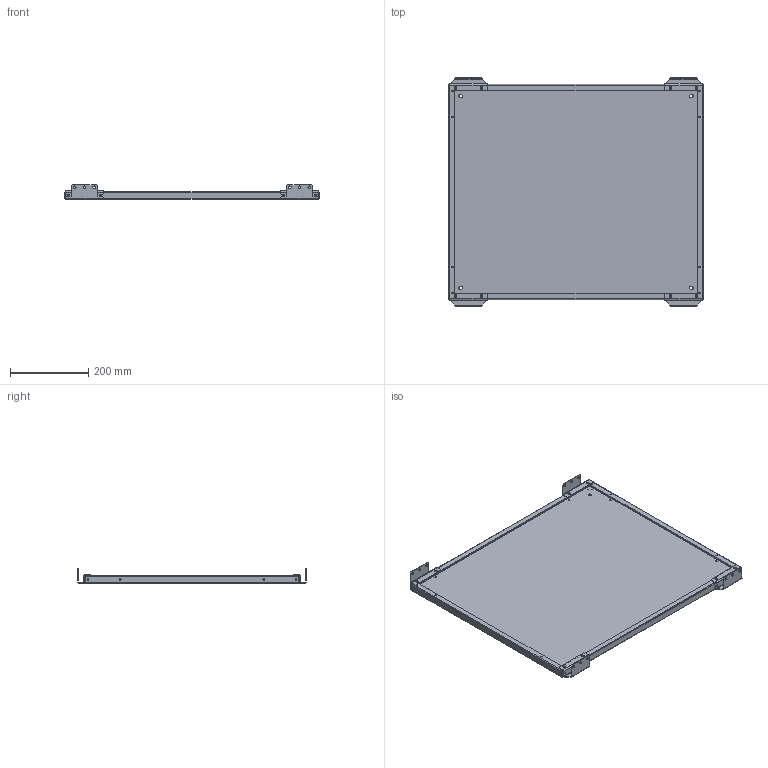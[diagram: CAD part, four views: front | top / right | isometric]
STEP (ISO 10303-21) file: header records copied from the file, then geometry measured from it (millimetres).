
FILE_DESCRIPTION (( 'STEP AP203' ), '1' );
FILE_NAME ('MP 65.55 M Ïàíåëü ìîíòàæíàÿ ñåêöèîííàÿ (ãîðèçîíòàëüíîå êðåïëåíèå).STEP', '2021-04-06T07:13:05', ( '' ), ( '' ), 'SwSTEP 2.0', 'SolidWorks 2018', '' );
FILE_SCHEMA (( 'CONFIG_CONTROL_DESIGN' ));
Length unit declared in the file: millimetre
Products named in the file (1): MP 65.55 M Ïàíåëü ìîíòàæíàÿ ñåêöèîííàÿ (ãîðèçîíòàëüíîå êðåïëåíèå)
Bounding box: 650 x 585 x 37.75 mm (x, y, z)
Volume: 908958.5 mm3; surface area: 918660.8 mm2
Topology: 5 solids, 5 shells, 388 faces, 1016 edges, 632 vertices
Faces by surface type: cylinder 196, plane 168, bspline 16, sphere 8
Entity records: 12713 total; most frequent: CARTESIAN_POINT 2749, DIRECTION 2050, ORIENTED_EDGE 2016, EDGE_CURVE 1008, AXIS2_PLACEMENT_3D 733, VERTEX_POINT 632, LINE 584, VECTOR 584
